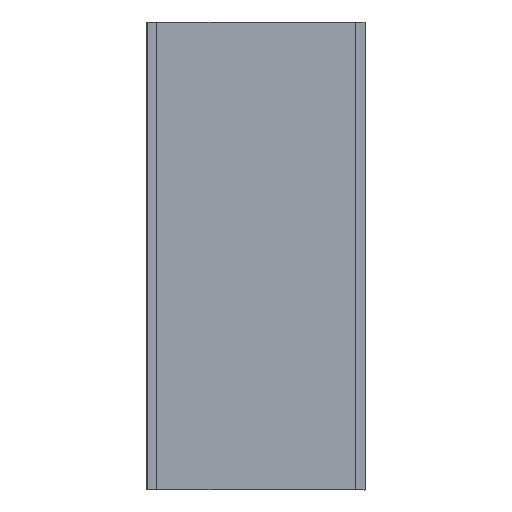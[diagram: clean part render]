
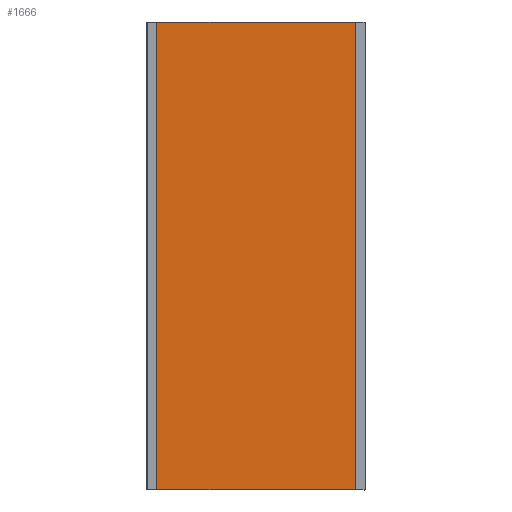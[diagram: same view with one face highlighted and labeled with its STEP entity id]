
A CAD part, top view. The second image highlights one B-rep face of the part: STEP entity #1666.
In plain terms, the highlighted planar face has unit normal (0, 0, 1).
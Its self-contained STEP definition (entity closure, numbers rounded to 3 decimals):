
#20=FACE_OUTER_BOUND('',#102,.T.);
#102=EDGE_LOOP('',(#1053,#1054,#1055,#1056));
#187=LINE('',#2263,#419);
#188=LINE('',#2266,#420);
#190=LINE('',#2270,#422);
#192=LINE('',#2273,#424);
#419=VECTOR('',#1862,10.);
#420=VECTOR('',#1865,10.);
#422=VECTOR('',#1869,10.);
#424=VECTOR('',#1873,10.);
#649=VERTEX_POINT('',#2259);
#650=VERTEX_POINT('',#2261);
#651=VERTEX_POINT('',#2265);
#652=VERTEX_POINT('',#2269);
#807=EDGE_CURVE('',#649,#650,#187,.T.);
#808=EDGE_CURVE('',#651,#650,#188,.T.);
#810=EDGE_CURVE('',#652,#651,#190,.T.);
#812=EDGE_CURVE('',#652,#649,#192,.T.);
#1053=ORIENTED_EDGE('',*,*,#812,.T.);
#1054=ORIENTED_EDGE('',*,*,#807,.T.);
#1055=ORIENTED_EDGE('',*,*,#808,.F.);
#1056=ORIENTED_EDGE('',*,*,#810,.F.);
#1502=PLANE('',#1773);
#1666=ADVANCED_FACE('',(#20),#1502,.T.);
#1773=AXIS2_PLACEMENT_3D('',#2274,#1874,#1875);
#1862=DIRECTION('',(0.,-1.,0.));
#1865=DIRECTION('',(-1.,0.,0.));
#1869=DIRECTION('',(0.,-1.,0.));
#1873=DIRECTION('',(-1.,0.,0.));
#1874=DIRECTION('center_axis',(0.,0.,
1.));
#1875=DIRECTION('ref_axis',(0.,1.,0.));
#2259=CARTESIAN_POINT('',(-3770.816,2751.815,933.843));
#2261=CARTESIAN_POINT('',(-3770.816,901.815,933.843));
#2263=CARTESIAN_POINT('',(-3770.816,2751.815,933.843));
#2265=CARTESIAN_POINT('',(-2964.873,901.815,933.843));
#2266=CARTESIAN_POINT('',(-2964.873,901.815,933.843));
#2269=CARTESIAN_POINT('',(-2964.873,2751.815,933.843));
#2270=CARTESIAN_POINT('',(-2964.873,2751.815,933.843));
#2273=CARTESIAN_POINT('',(-2964.873,2751.815,933.843));
#2274=CARTESIAN_POINT('Origin',(-3367.845,2751.815,933.843));
